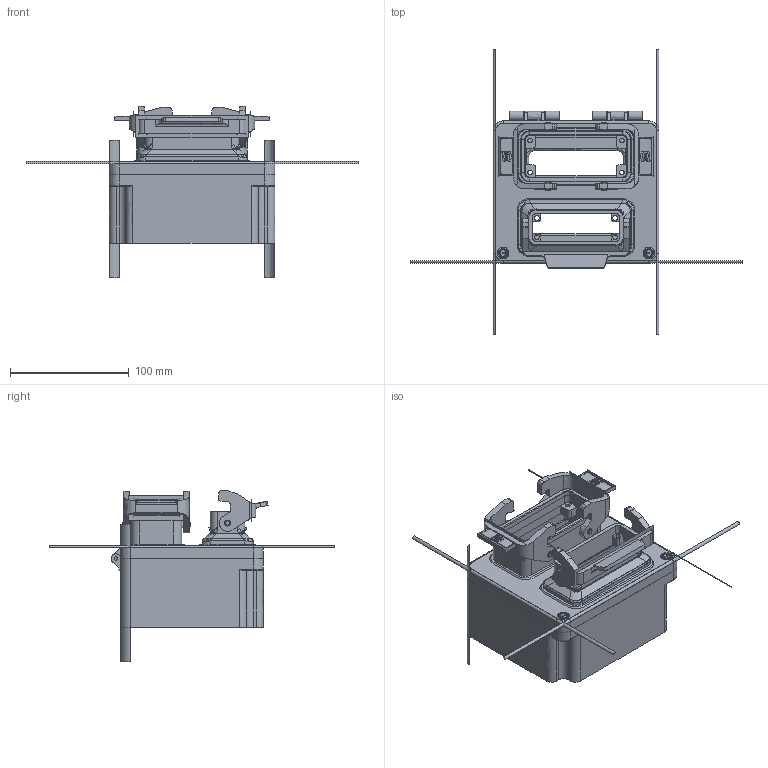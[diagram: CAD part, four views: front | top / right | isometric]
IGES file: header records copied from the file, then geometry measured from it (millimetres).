
Start section: Cimatron Iges convertor
Global section: file name: I:\k-box\cimatron\groesse_3\gr_3_16e_16a-ab.igs; native system: prt/Cimatron V13.10; preprocessor: Cimatron IGES (V5.3) Convertor V5.0.6.0; author: NONE; organization: NONE; date: 060821.192807; units: millimetre
Bounding box: 280.08 x 240.08 x 144.56 mm (x, y, z)
Surface area: 186601.3 mm2 (no closed solid volume)
Topology: 0 solids, 0 shells, 1404 faces, 9931 edges, 12092 vertices
Faces by surface type: bspline 1344, revolution 52, extrusion 8
